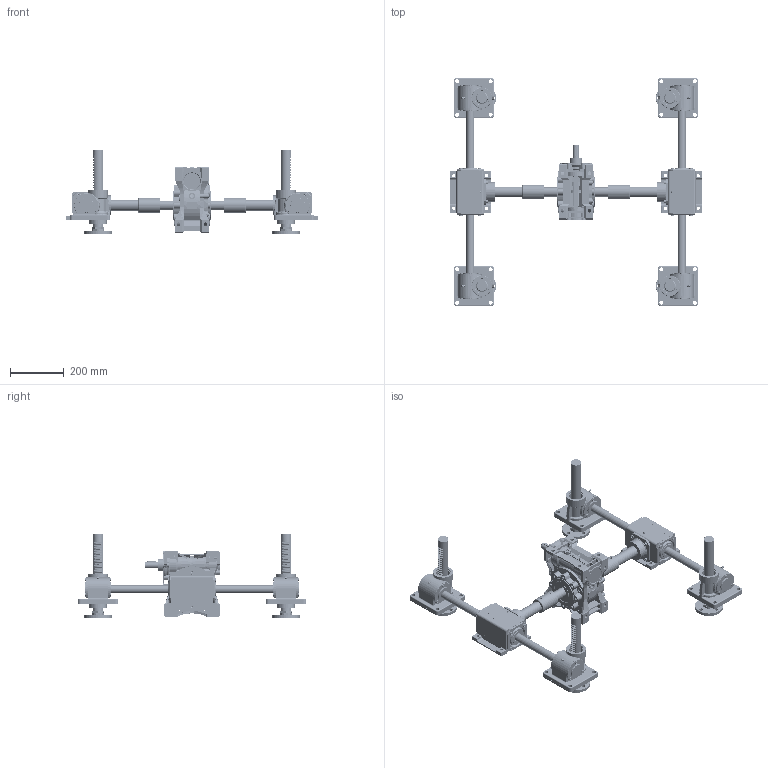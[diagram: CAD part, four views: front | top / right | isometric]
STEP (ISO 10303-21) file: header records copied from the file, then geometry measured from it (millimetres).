
FILE_DESCRIPTION(('STEP AP203'),'1');
FILE_NAME('RJ20-4SUH-700x700-350-150ST-090.stp','2022-07-07T01:40:50',(' '),(' '),'Spatial InterOp 3D',' ',' ');
FILE_SCHEMA(('CONFIG_CONTROL_DESIGN'));
Length unit declared in the file: millimetre
Products named in the file (144): RJ20-4SUH-700x700-350-150ST-090; ASSEM1; Flange.1-Part; Flange.1; Joint.1; Nut.1; Flange.2-Part; Flange.2; Joint.2; Nut.2; Flange.3-Part; Flange.3; Joint.3; Nut.3; Flange.4-Part; Flange.4; Joint.4; Nut.4; Body.1-Part; Nipple; Bolt; Bearing Cover Open.1(RJ20); Bearing Cover Close.1(RJ20); Gear Box.1(RJ20); RJ05-4SCJ-610X600-100ST_CAP; LABEL-B.1; SUNIL __; 파트1; Body.2-Part; Bearing Cover Open.2(RJ20); Bearing Cover Close.2(RJ20); Gear Box.2(RJ20); Body.3-Part; Bearing Cover Open.3(RJ20); Bearing Cover Close.3(RJ20); Gear Box.3(RJ20); Body.4-Part; Bearing Cover Open.4(RJ20); Bearing Cover Close.4(RJ20); Gear Box.4(RJ20)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
Assembly tree (144 placements, depth 7):
  RJ20-4SUH-700x700-350-150ST-090
    ASSEM1
    (unnamed)
    (unnamed)
    (unnamed)
    Flange.1-Part
      Flange.1
      Joint.1
      Nut.1
    Flange.2-Part
      Flange.2
      Joint.2
      Nut.2
    Flange.3-Part
      Flange.3
      Joint.3
      Nut.3
    Flange.4-Part
      Flange.4
      Joint.4
      Nut.4
    Body.1-Part
      Nipple
      Bolt
      Bolt
      Bolt
      Bolt
      Bolt
      Bolt
      Bearing Cover Open.1(RJ20)
      Bearing Cover Close.1(RJ20)
      Gear Box.1(RJ20)
      SUNIL __
        RJ05-4SCJ-610X600-100ST_CAP
          LABEL-B.1
        파트1
    Body.2-Part
      Nipple
      Bolt
      Bolt
      Bolt
      Bolt
      Bolt
      Bolt
      Bearing Cover Open.2(RJ20)
      Bearing Cover Close.2(RJ20)
      Gear Box.2(RJ20)
      SUNIL __
        RJ05-4SCJ-610X600-100ST_CAP
          LABEL-B.1
        파트1
    Body.3-Part
      Nipple
      Bolt
      Bolt
      Bolt
      Bolt
      Bolt
      Bolt
      Bearing Cover Open.3(RJ20)
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Bounding box: 942 x 850 x 315 mm (x, y, z)
Volume: 12872924.1 mm3; surface area: 2251959.8 mm2
Topology: 177 solids, 179 shells, 16227 faces, 45236 edges, 29722 vertices
Faces by surface type: plane 13210, cylinder 1767, cone 506, torus 442, bspline 146, extrusion 82, revolution 42, sphere 32
Full cylindrical faces by diameter (mm): 3.113 x6, 6 x48, 6.6 x6, 6.647 x1, 7.45 x12, 8 x76, 8.376 x16, 8.4 x1, 8.5 x24, 9 x24, 11 x24, 12 x8, 13 x32, 13.4 x14, 14 x36, 24 x3, 28 x4, 30 x12, 30.5 x4, 31 x1, 32 x8, 35 x5, 40 x6, 42 x2, 43 x4, 44 x12, 45 x6, 46 x8, 50 x9, 52 x8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
Entity records: 534512 total; most frequent: CARTESIAN_POINT 115124, ORIENTED_EDGE 87702, DIRECTION 79851, EDGE_CURVE 43851, VECTOR 37687, LINE 37605, VERTEX_POINT 29395, AXIS2_PLACEMENT_3D 21061
